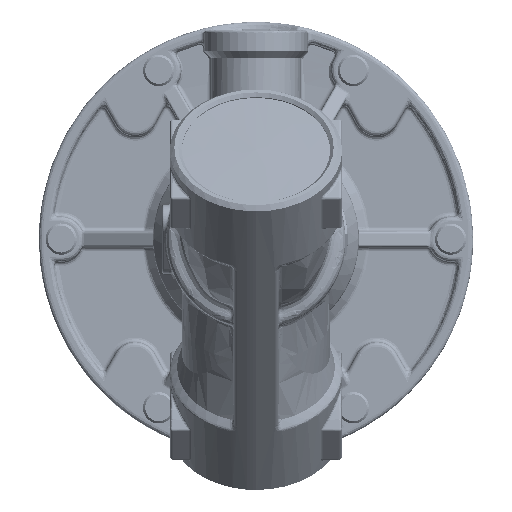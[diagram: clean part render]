
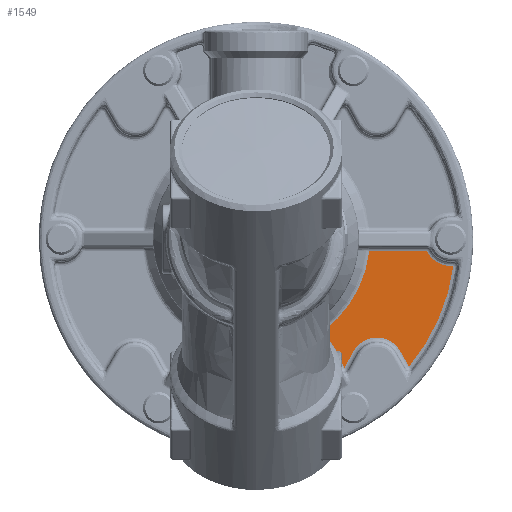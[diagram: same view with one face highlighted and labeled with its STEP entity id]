
A CAD part, front view. The second image highlights one B-rep face of the part: STEP entity #1549.
In plain terms, the highlighted planar face has unit normal (0, -1, 0).
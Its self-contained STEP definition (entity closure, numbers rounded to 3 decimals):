
#1549=ADVANCED_FACE('',(#14197),#14196,.F.);
#14196=PLANE('',#47274);
#14197=FACE_OUTER_BOUND('',#47275,.T.);
#47271=CARTESIAN_POINT('',(-31.342,24.5,-47.002));
#47272=DIRECTION('',(0.,1.,0.));
#47273=DIRECTION('',(0.,0.,1.));
#47274=AXIS2_PLACEMENT_3D('',#47271,#47272,#47273);
#47275=EDGE_LOOP('',(#54616,#54617,#54618,#54619,#54620,#54621,#54622,#54623,#54624));
#54616=ORIENTED_EDGE('',*,*,#57743,.T.);
#54617=ORIENTED_EDGE('',*,*,#57746,.T.);
#54618=ORIENTED_EDGE('',*,*,#58501,.T.);
#54619=ORIENTED_EDGE('',*,*,#57748,.T.);
#54620=ORIENTED_EDGE('',*,*,#57753,.T.);
#54621=ORIENTED_EDGE('',*,*,#58500,.T.);
#54622=ORIENTED_EDGE('',*,*,#58513,.T.);
#54623=ORIENTED_EDGE('',*,*,#57755,.T.);
#54624=ORIENTED_EDGE('',*,*,#58499,.T.);
#57743=EDGE_CURVE('',#73888,#73903,#73910,.T.);
#57746=EDGE_CURVE('',#73903,#73923,#73930,.T.);
#57748=EDGE_CURVE('',#73944,#73937,#73945,.T.);
#57753=EDGE_CURVE('',#73937,#73971,#73978,.T.);
#57755=EDGE_CURVE('',#73991,#73984,#73992,.T.);
#58499=EDGE_CURVE('',#73984,#73888,#78855,.T.);
#58500=EDGE_CURVE('',#73971,#76286,#78861,.T.);
#58501=EDGE_CURVE('',#73923,#73944,#78867,.T.);
#58513=EDGE_CURVE('',#76286,#73991,#78939,.T.);
#73888=VERTEX_POINT('',#97077);
#73903=VERTEX_POINT('',#97088);
#73910=CIRCLE('',#97096,6.);
#73923=VERTEX_POINT('',#97101);
#73930=LINE('',#97106,#97107);
#73937=VERTEX_POINT('',#97110);
#73944=VERTEX_POINT('',#97115);
#73945=LINE('',#97116,#97117);
#73971=VERTEX_POINT('',#97132);
#73978=CIRCLE('',#97140,6.);
#73984=VERTEX_POINT('',#97141);
#73991=VERTEX_POINT('',#97146);
#73992=LINE('',#97147,#97148);
#76286=VERTEX_POINT('',#98989);
#78855=LINE('',#101582,#101583);
#78861=LINE('',#101585,#101586);
#78867=CIRCLE('',#101591,44.5);
#78939=CIRCLE('',#101639,25.414);
#97077=CARTESIAN_POINT('',(-25.138,24.5,-21.727));
#97088=CARTESIAN_POINT('',(-25.,24.5,-32.196));
#97093=CARTESIAN_POINT('',(-28.,24.5,-27.));
#97094=DIRECTION('',(0.,1.,0.));
#97095=DIRECTION('',(0.,0.,-1.));
#97096=AXIS2_PLACEMENT_3D('',#97093,#97094,#97095);
#97101=CARTESIAN_POINT('',(-28.471,24.5,-34.2));
#97106=CARTESIAN_POINT('',(-25.,24.5,-32.196));
#97107=VECTOR('',#97108,4.008);
#97108=DIRECTION('',(-0.866,0.,-0.5));
#97110=CARTESIAN_POINT('',(-6.,24.5,-43.5));
#97115=CARTESIAN_POINT('',(-6.,24.5,-44.094));
#97116=CARTESIAN_POINT('',(-6.,24.5,-44.094));
#97117=VECTOR('',#97118,0.594);
#97118=DIRECTION('',(0.,0.,1.));
#97132=CARTESIAN_POINT('',(-2.75,24.5,-38.167));
#97137=CARTESIAN_POINT('',(0.,24.5,-43.5));
#97138=DIRECTION('',(0.,1.,0.));
#97139=DIRECTION('',(0.,0.,-1.));
#97140=AXIS2_PLACEMENT_3D('',#97137,#97138,#97139);
#97141=CARTESIAN_POINT('',(-28.743,24.5,-19.77));
#97146=CARTESIAN_POINT('',(-20.505,24.5,-15.014));
#97147=CARTESIAN_POINT('',(-20.505,24.5,-15.014));
#97148=VECTOR('',#97149,9.512);
#97149=DIRECTION('',(-0.866,0.,-0.5));
#98989=CARTESIAN_POINT('',(-2.75,24.5,-25.265));
#101582=CARTESIAN_POINT('',(-28.743,24.5,-19.77));
#101583=VECTOR('',#101584,4.102);
#101584=DIRECTION('',(0.879,0.,-0.477));
#101585=CARTESIAN_POINT('',(-2.75,24.5,-38.167));
#101586=VECTOR('',#101587,12.902);
#101587=DIRECTION('',(0.,0.,1.));
#101588=CARTESIAN_POINT('',(0.,24.5,0.));
#101589=DIRECTION('',(0.,-1.,0.));
#101590=DIRECTION('',(0.,0.,-1.));
#101591=AXIS2_PLACEMENT_3D('',#101588,#101589,#101590);
#101636=CARTESIAN_POINT('',(0.,24.5,0.));
#101637=DIRECTION('',(0.,1.,0.));
#101638=DIRECTION('',(0.,0.,-1.));
#101639=AXIS2_PLACEMENT_3D('',#101636,#101637,#101638);
